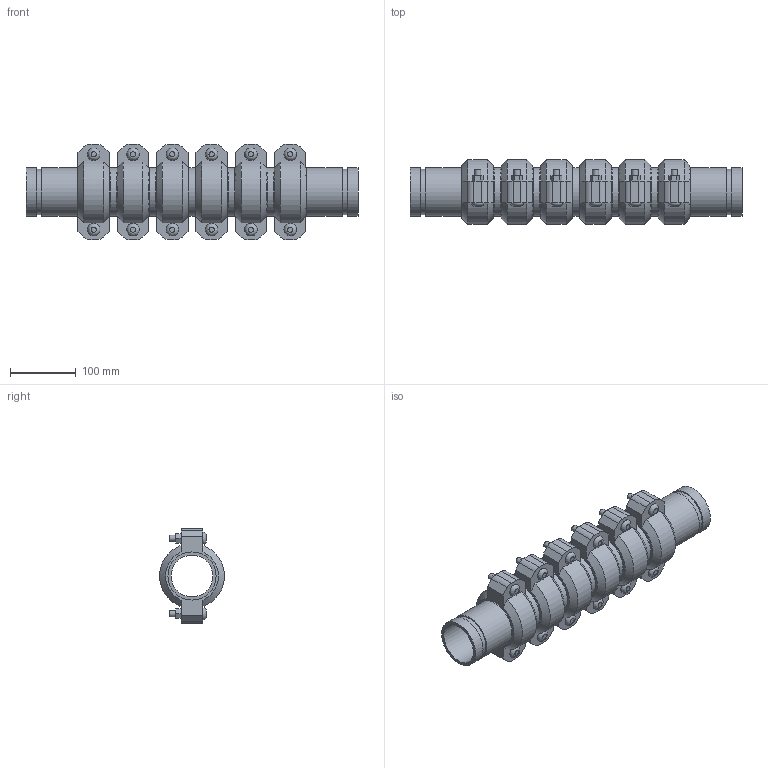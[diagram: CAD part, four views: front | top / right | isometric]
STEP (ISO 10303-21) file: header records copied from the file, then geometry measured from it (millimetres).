
FILE_DESCRIPTION(/* description */ ('VIC SS EXPANSION JOINT 6 COUPLINGS NEUTRAL STYLE 155P (OGS) (POTABLE WATER) ','CAx-IF Rec.Pracs.---Representation and Presentation of Product Manufacturing Information (PMI)---4.0---2014-10-13'),/* implementation_level */ '2;1');
FILE_NAME(/* name */ 'C:\Users\kkamble\AppData\Roaming\Autodesk\ApplicationPlugins\Victaulic.Temp\A292\Victaulic_SS_Expansion Joint_Neutral_6 Couplings_Style 155P (OGS)-Potable Water_6 Coup_Neut_2.5 (65).stp',/* time_stamp */ '2021-07-16T16:35:56+05:00',/* author */ ('kkamble'),/* organization */ ('Victaulic'),/* preprocessor_version */ 'ST-DEVELOPER v17.2',/* originating_system */ 'Autodesk Inventor 2019',/* authorisation */ '');
FILE_SCHEMA (('AP242_MANAGED_MODEL_BASED_3D_ENGINEERING_MIM_LF { 1 0 10303 442 1 1 4 }'));
Length unit declared in the file: inch
Products named in the file (4): 155-02.5; Nipple-02.5; Nipple-02.5_1; 075-02.5
Assembly tree (13 placements, depth 2):
  155-02.5
    Nipple-02.5  x2
    Nipple-02.5_1  x5
    075-02.5  x6
Bounding box: 503.17 x 98.22 x 144.27 mm (x, y, z)
Volume: 1745348.9 mm3; surface area: 499099.3 mm2
Topology: 13 solids, 25 shells, 426 faces, 1008 edges, 708 vertices
Faces by surface type: plane 258, cylinder 132, cone 24, bspline 12
Full cylindrical faces by diameter (mm): 9.525 x24, 11.43 x12, 63.475 x7, 66.675 x6, 69.088 x14, 73.025 x33
Entity records: 2817 total; most frequent: CARTESIAN_POINT 497, DIRECTION 469, ORIENTED_EDGE 386, EDGE_CURVE 193, AXIS2_PLACEMENT_3D 188, VERTEX_POINT 138, EDGE_LOOP 107, LINE 93
